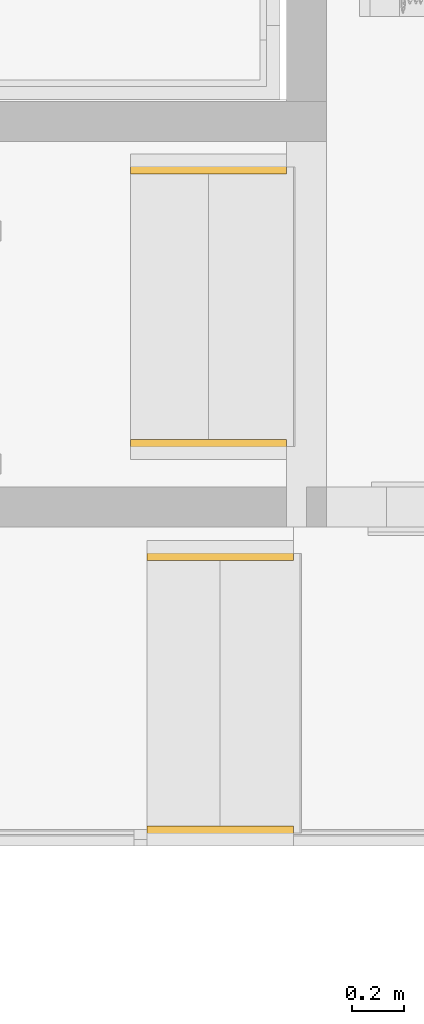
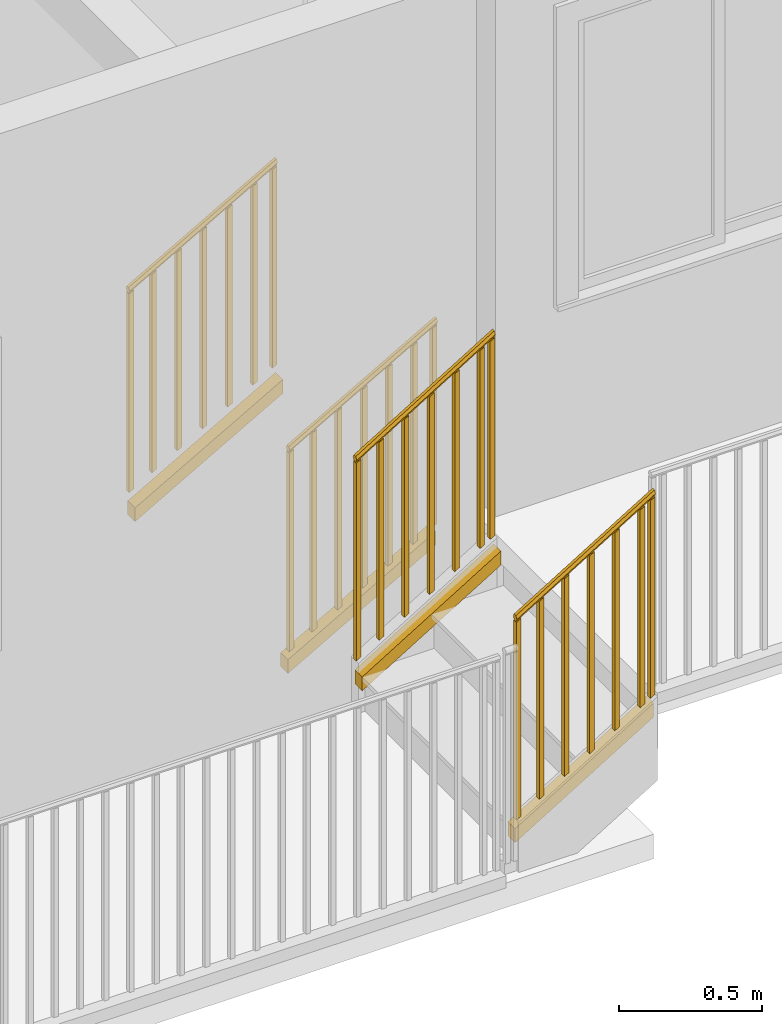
# One storey, part 11 of 21: 4 railings, 2 elements without a shape of their own.
"""IFC2X3 building model written with IfcOpenShell, lengths in feet."""

from ifc_helpers import new_model, entity, si_unit, converted_unit, derived_unit, direction, frame, origin, place, context, subcontext, project, spatial, faceted_brep, element, aggregate, save


model = new_model("IFC2X3")

# Units and contexts
model_context = context("Model", 3, precision=0.0001, world=origin(), true_north=direction((6.12303176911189e-17, 1.0)))
body_context = subcontext(model_context, "Body", "Model", "MODEL_VIEW")
ifc_project = project(units=[converted_unit("LENGTHUNIT", "FOOT", entity("IfcRatioMeasure", 0.3048), si_unit("LENGTHUNIT", "METRE"), dimensions=[1, 0, 0, 0, 0, 0, 0]), converted_unit("AREAUNIT", "SQUARE FOOT", entity("IfcRatioMeasure", 0.09290304), si_unit("AREAUNIT", "SQUARE_METRE"), dimensions=[2, 0, 0, 0, 0, 0, 0]), converted_unit("VOLUMEUNIT", "CUBIC FOOT", entity("IfcRatioMeasure", 0.028316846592), si_unit("VOLUMEUNIT", "CUBIC_METRE"), dimensions=[3, 0, 0, 0, 0, 0, 0]), converted_unit("PLANEANGLEUNIT", "DEGREE", entity("IfcRatioMeasure", 0.0174532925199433), si_unit("PLANEANGLEUNIT", "RADIAN"), dimensions=[0, 0, 0, 0, 0, 0, 0]), si_unit("MASSUNIT", "GRAM", prefix="KILO"), derived_unit("MASSDENSITYUNIT", [(si_unit("MASSUNIT", "GRAM", prefix="KILO"), 1), (si_unit("LENGTHUNIT", "METRE"), -3)]), si_unit("TIMEUNIT", "SECOND"), si_unit("FREQUENCYUNIT", "HERTZ"), si_unit("THERMODYNAMICTEMPERATUREUNIT", "DEGREE_CELSIUS"), derived_unit("THERMALTRANSMITTANCEUNIT", [(si_unit("MASSUNIT", "GRAM", prefix="KILO"), 1), (si_unit("THERMODYNAMICTEMPERATUREUNIT", "KELVIN"), -1), (si_unit("TIMEUNIT", "SECOND"), -3)]), derived_unit("VOLUMETRICFLOWRATEUNIT", [(si_unit("LENGTHUNIT", "METRE"), 3), (si_unit("TIMEUNIT", "SECOND"), -1)]), si_unit("ELECTRICCURRENTUNIT", "AMPERE"), si_unit("ELECTRICVOLTAGEUNIT", "VOLT"), si_unit("POWERUNIT", "WATT"), si_unit("FORCEUNIT", "NEWTON"), si_unit("ILLUMINANCEUNIT", "LUX"), si_unit("LUMINOUSFLUXUNIT", "LUMEN"), si_unit("LUMINOUSINTENSITYUNIT", "CANDELA"), derived_unit("USERDEFINED", [(si_unit("MASSUNIT", "GRAM", prefix="KILO"), -1), (si_unit("LENGTHUNIT", "METRE"), -2), (si_unit("TIMEUNIT", "SECOND"), 3), (si_unit("LUMINOUSFLUXUNIT", "LUMEN"), 1)]), derived_unit("LINEARVELOCITYUNIT", [(si_unit("LENGTHUNIT", "METRE"), 1), (si_unit("TIMEUNIT", "SECOND"), -1)]), si_unit("PRESSUREUNIT", "PASCAL"), derived_unit("USERDEFINED", [(si_unit("LENGTHUNIT", "METRE"), -2), (si_unit("MASSUNIT", "GRAM", prefix="KILO"), 1), (si_unit("TIMEUNIT", "SECOND"), -2)])], contexts=[model_context])

# Site, building, storey
site_placement = place(None, origin())
site = spatial("IfcSite", under=ifc_project, at=site_placement, Name="表面", CompositionType="ELEMENT")
building_placement = place(site_placement, origin())
building = spatial("IfcBuilding", under=site, at=building_placement, CompositionType="ELEMENT")
storey_placement = place(building_placement, origin())
storey = spatial("IfcBuildingStorey", under=building, at=storey_placement, Name="Level 1", CompositionType="ELEMENT", Elevation=0.0)

# Stair, railings
stair_1_placement = place(storey_placement, origin())
stair_1 = element("IfcStair", 1, at=stair_1_placement, inside=storey, Name="楼梯:7\" max riser 11\" tread", ObjectType="楼梯:7\" max riser 11\" tread", ShapeType="NOTDEFINED")
railing_1_placement = place(stair_1_placement, frame((13.9650869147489, -13.8176063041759, 0.863628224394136)))
railing_1 = element("IfcRailing", 2, at=railing_1_placement, Name="栏杆扶手:Handrail - Rectangular", ObjectType="栏杆扶手:Handrail - Rectangular", PredefinedType="NOTDEFINED", context=body_context, shape_type="Brep", body=[
    faceted_brep([(1.63541666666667, 0.197916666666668, 4.09458963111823), (1.63541666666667, 0.197916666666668, 1.33037211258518), (1.63541666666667, 0.135416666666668, 1.33037211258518), (1.63541666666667, 0.135416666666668, 4.09458963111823), (1.69791666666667, 0.197916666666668, 4.1326912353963), (1.69791666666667, 0.197916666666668, 1.36847371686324), (1.69791666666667, 0.135416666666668, 4.1326912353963), (1.69791666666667, 0.135416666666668, 1.36847371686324)], [[[0, 1, 2, 3]], [[4, 5, 1, 0]], [[6, 7, 5, 4]], [[3, 2, 7, 6]], [[3, 6, 4, 0]], [[1, 5, 7, 2]]]),
    faceted_brep([(1.30208333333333, 0.197916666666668, 3.89138107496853), (1.30208333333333, 0.197916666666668, 1.12716355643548), (1.30208333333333, 0.135416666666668, 1.12716355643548), (1.30208333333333, 0.135416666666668, 3.89138107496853), (1.36458333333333, 0.197916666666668, 3.9294826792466), (1.36458333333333, 0.197916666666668, 1.16526516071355), (1.36458333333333, 0.135416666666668, 3.9294826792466), (1.36458333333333, 0.135416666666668, 1.16526516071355)], [[[0, 1, 2, 3]], [[4, 5, 1, 0]], [[6, 7, 5, 4]], [[3, 2, 7, 6]], [[3, 6, 4, 0]], [[1, 5, 7, 2]]]),
    faceted_brep([(0.96875, 0.197916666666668, 3.68817251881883), (0.96875, 0.197916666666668, 0.923955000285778), (0.96875, 0.135416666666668, 0.923955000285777), (0.96875, 0.135416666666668, 3.68817251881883), (1.03125, 0.197916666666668, 3.7262741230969), (1.03125, 0.197916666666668, 0.962056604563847), (1.03125, 0.135416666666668, 3.7262741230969), (1.03125, 0.135416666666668, 0.962056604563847)], [[[0, 1, 2, 3]], [[4, 5, 1, 0]], [[6, 7, 5, 4]], [[3, 2, 7, 6]], [[3, 6, 4, 0]], [[1, 5, 7, 2]]]),
    faceted_brep([(0.635416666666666, 0.197916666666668, 3.48496396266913), (0.635416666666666, 0.197916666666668, 0.720746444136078), (0.635416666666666, 0.135416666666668, 0.720746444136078), (0.635416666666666, 0.135416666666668, 3.48496396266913), (0.697916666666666, 0.197916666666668, 3.5230655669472), (0.697916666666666, 0.197916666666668, 0.758848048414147), (0.697916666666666, 0.135416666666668, 3.5230655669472), (0.697916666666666, 0.135416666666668, 0.758848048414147)], [[[0, 1, 2, 3]], [[4, 5, 1, 0]], [[6, 7, 5, 4]], [[3, 2, 7, 6]], [[3, 6, 4, 0]], [[1, 5, 7, 2]]]),
    faceted_brep([(0.302083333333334, 0.197916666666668, 3.28175540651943), (0.302083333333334, 0.197916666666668, 0.51753788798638), (0.302083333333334, 0.135416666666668, 0.51753788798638), (0.302083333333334, 0.135416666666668, 3.28175540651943), (0.364583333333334, 0.197916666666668, 3.3198570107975), (0.364583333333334, 0.197916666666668, 0.555639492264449), (0.364583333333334, 0.135416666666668, 3.3198570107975), (0.364583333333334, 0.135416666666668, 0.555639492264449)], [[[0, 1, 2, 3]], [[4, 5, 1, 0]], [[6, 7, 5, 4]], [[3, 2, 7, 6]], [[3, 6, 4, 0]], [[1, 5, 7, 2]]]),
    faceted_brep([(1.77083333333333, 0.197916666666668, 4.17714310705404), (1.77083333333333, 0.197916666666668, 1.41292558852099), (1.77083333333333, 0.135416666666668, 1.41292558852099), (1.77083333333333, 0.135416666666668, 4.17714310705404), (1.83333333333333, 0.197916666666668, 4.21524471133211), (1.83333333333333, 0.197916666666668, 1.45102719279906), (1.83333333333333, 0.135416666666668, 4.21524471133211), (1.83333333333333, 0.135416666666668, 1.45102719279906)], [[[0, 1, 2, 3]], [[4, 5, 1, 0]], [[6, 7, 5, 4]], [[3, 2, 7, 6]], [[3, 6, 4, 0]], [[1, 5, 7, 2]]]),
    faceted_brep([(0.0, 0.197916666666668, 3.09759765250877), (0.0, 0.197916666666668, 0.333380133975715), (0.0, 0.135416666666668, 0.333380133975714), (0.0, 0.135416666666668, 3.09759765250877), (0.0625, 0.197916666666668, 3.13569925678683), (0.0625, 0.197916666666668, 0.371481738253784), (0.0625, 0.135416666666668, 3.13569925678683), (0.0625, 0.135416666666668, 0.371481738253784)], [[[0, 1, 2, 3]], [[4, 5, 1, 0]], [[6, 7, 5, 4]], [[3, 2, 7, 6]], [[3, 6, 4, 0]], [[1, 5, 7, 2]]]),
    faceted_brep([(0.0, 0.0, 0.195195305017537), (0.0, 0.166666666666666, 0.195195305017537), (0.0, 0.166666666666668, 0.0), (0.0, 0.0, 0.0), (1.83333333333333, 0.0, 1.31284236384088), (1.83333333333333, 0.0, 1.11764705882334), (1.83333333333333, 0.166666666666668, 1.11764705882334), (1.83333333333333, 0.166666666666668, 1.31284236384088)], [[[0, 1, 2, 3]], [[4, 5, 6, 7]], [[3, 2, 6, 5]], [[0, 3, 5, 4]], [[1, 0, 4, 7]], [[2, 1, 7, 6]]]),
    faceted_brep([(0.0, 0.208333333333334, 3.14639647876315), (0.0, 0.187500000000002, 3.10413545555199), (0.0, 0.145833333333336, 3.10413545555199), (0.0, 0.125000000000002, 3.14639647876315), (0.0, 0.145833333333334, 3.18865750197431), (0.0, 0.187500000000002, 3.18865750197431), (1.83333333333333, 0.145833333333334, 4.30630456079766), (1.83333333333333, 0.125000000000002, 4.2640435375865), (1.83333333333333, 0.145833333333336, 4.22178251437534), (1.83333333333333, 0.187500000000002, 4.22178251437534), (1.83333333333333, 0.208333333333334, 4.2640435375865), (1.83333333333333, 0.187500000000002, 4.30630456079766)], [[[0, 1, 2, 3, 4, 5]], [[6, 7, 8, 9, 10, 11]], [[7, 6, 4, 3]], [[6, 11, 5, 4]], [[11, 10, 0, 5]], [[10, 9, 1, 0]], [[9, 8, 2, 1]], [[8, 7, 3, 2]]]),
])
railing_2_placement = place(stair_1_placement, frame((13.9650869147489, -17.3645068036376, 0.863628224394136)))
railing_2 = element("IfcRailing", 3, at=railing_2_placement, Name="栏杆扶手:Handrail - Rectangular", ObjectType="栏杆扶手:Handrail - Rectangular", PredefinedType="NOTDEFINED", context=body_context, shape_type="Brep", body=[
    faceted_brep([(1.63541666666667, 0.0156504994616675, 4.09458963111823), (1.63541666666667, 0.0781504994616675, 4.09458963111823), (1.63541666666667, 0.0781504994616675, 1.33037211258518), (1.63541666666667, 0.0156504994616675, 1.33037211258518), (1.69791666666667, 0.0156504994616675, 4.1326912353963), (1.69791666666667, 0.0156504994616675, 1.36847371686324), (1.69791666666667, 0.0781504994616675, 4.1326912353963), (1.69791666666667, 0.0781504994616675, 1.36847371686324)], [[[0, 1, 2, 3]], [[4, 0, 3, 5]], [[6, 4, 5, 7]], [[1, 6, 7, 2]], [[1, 0, 4, 6]], [[3, 2, 7, 5]]]),
    faceted_brep([(1.30208333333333, 0.0156504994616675, 3.89138107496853), (1.30208333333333, 0.0781504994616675, 3.89138107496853), (1.30208333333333, 0.0781504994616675, 1.12716355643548), (1.30208333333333, 0.0156504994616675, 1.12716355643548), (1.36458333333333, 0.0156504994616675, 3.9294826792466), (1.36458333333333, 0.0156504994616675, 1.16526516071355), (1.36458333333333, 0.0781504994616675, 3.9294826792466), (1.36458333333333, 0.0781504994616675, 1.16526516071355)], [[[0, 1, 2, 3]], [[4, 0, 3, 5]], [[6, 4, 5, 7]], [[1, 6, 7, 2]], [[1, 0, 4, 6]], [[3, 2, 7, 5]]]),
    faceted_brep([(0.96875, 0.0156504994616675, 3.68817251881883), (0.96875, 0.0781504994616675, 3.68817251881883), (0.96875, 0.0781504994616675, 0.923955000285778), (0.96875, 0.0156504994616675, 0.923955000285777), (1.03125, 0.0156504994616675, 3.7262741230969), (1.03125, 0.0156504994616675, 0.962056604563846), (1.03125, 0.0781504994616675, 3.7262741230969), (1.03125, 0.0781504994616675, 0.962056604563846)], [[[0, 1, 2, 3]], [[4, 0, 3, 5]], [[6, 4, 5, 7]], [[1, 6, 7, 2]], [[1, 0, 4, 6]], [[3, 2, 7, 5]]]),
    faceted_brep([(0.635416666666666, 0.0156504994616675, 3.48496396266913), (0.635416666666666, 0.0781504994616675, 3.48496396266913), (0.635416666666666, 0.0781504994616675, 0.720746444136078), (0.635416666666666, 0.0156504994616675, 0.720746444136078), (0.697916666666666, 0.0156504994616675, 3.5230655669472), (0.697916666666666, 0.0156504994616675, 0.758848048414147), (0.697916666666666, 0.0781504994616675, 3.5230655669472), (0.697916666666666, 0.0781504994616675, 0.758848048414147)], [[[0, 1, 2, 3]], [[4, 0, 3, 5]], [[6, 4, 5, 7]], [[1, 6, 7, 2]], [[1, 0, 4, 6]], [[3, 2, 7, 5]]]),
    faceted_brep([(0.302083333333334, 0.0156504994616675, 3.28175540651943), (0.302083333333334, 0.0781504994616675, 3.28175540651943), (0.302083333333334, 0.0781504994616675, 0.51753788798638), (0.302083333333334, 0.0156504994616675, 0.51753788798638), (0.364583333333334, 0.0156504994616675, 3.3198570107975), (0.364583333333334, 0.0156504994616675, 0.555639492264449), (0.364583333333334, 0.0781504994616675, 3.3198570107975), (0.364583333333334, 0.0781504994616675, 0.555639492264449)], [[[0, 1, 2, 3]], [[4, 0, 3, 5]], [[6, 4, 5, 7]], [[1, 6, 7, 2]], [[1, 0, 4, 6]], [[3, 2, 7, 5]]]),
    faceted_brep([(1.77083333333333, 0.0156504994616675, 4.17714310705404), (1.77083333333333, 0.0781504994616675, 4.17714310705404), (1.77083333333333, 0.0781504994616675, 1.41292558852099), (1.77083333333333, 0.0156504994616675, 1.41292558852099), (1.83333333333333, 0.0156504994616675, 4.21524471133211), (1.83333333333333, 0.0156504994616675, 1.45102719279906), (1.83333333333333, 0.0781504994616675, 4.21524471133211), (1.83333333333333, 0.0781504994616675, 1.45102719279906)], [[[0, 1, 2, 3]], [[4, 0, 3, 5]], [[6, 4, 5, 7]], [[1, 6, 7, 2]], [[1, 0, 4, 6]], [[3, 2, 7, 5]]]),
    faceted_brep([(0.0, 0.0156504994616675, 3.09759765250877), (0.0, 0.0781504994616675, 3.09759765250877), (0.0, 0.0781504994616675, 0.333380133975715), (0.0, 0.0156504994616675, 0.333380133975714), (0.0625, 0.0156504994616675, 3.13569925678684), (0.0625, 0.0156504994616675, 0.371481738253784), (0.0625, 0.0781504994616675, 3.13569925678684), (0.0625, 0.0781504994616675, 0.371481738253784)], [[[0, 1, 2, 3]], [[4, 0, 3, 5]], [[6, 4, 5, 7]], [[1, 6, 7, 2]], [[1, 0, 4, 6]], [[3, 2, 7, 5]]]),
    faceted_brep([(0.0, 0.213567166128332, 0.195195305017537), (0.0, 0.213567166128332, 0.0), (0.0, 0.0469004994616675, 0.0), (0.0, 0.0469004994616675, 0.195195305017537), (1.83333333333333, 0.213567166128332, 1.31284236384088), (1.83333333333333, 0.046900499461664, 1.31284236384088), (1.83333333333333, 0.0469004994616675, 1.11764705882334), (1.83333333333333, 0.213567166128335, 1.11764705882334)], [[[0, 1, 2, 3]], [[4, 5, 6, 7]], [[1, 0, 4, 7]], [[2, 1, 7, 6]], [[3, 2, 6, 5]], [[0, 3, 5, 4]]]),
    faceted_brep([(0.0, 0.0677338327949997, 3.18865750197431), (0.0, 0.0885671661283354, 3.14639647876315), (0.0, 0.0677338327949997, 3.10413545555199), (0.0, 0.0260671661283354, 3.10413545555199), (0.0, 0.00523383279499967, 3.14639647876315), (0.0, 0.0260671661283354, 3.18865750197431), (1.83333333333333, 0.0260671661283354, 4.30630456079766), (1.83333333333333, 0.00523383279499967, 4.2640435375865), (1.83333333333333, 0.0260671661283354, 4.22178251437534), (1.83333333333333, 0.0677338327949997, 4.22178251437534), (1.83333333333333, 0.0885671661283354, 4.2640435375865), (1.83333333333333, 0.0677338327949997, 4.30630456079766)], [[[0, 1, 2, 3, 4, 5]], [[6, 7, 8, 9, 10, 11]], [[10, 9, 2, 1]], [[9, 8, 3, 2]], [[8, 7, 4, 3]], [[7, 6, 5, 4]], [[6, 11, 0, 5]], [[11, 10, 1, 0]]]),
])
aggregate(stair_1, [railing_1, railing_2])

stair_2_placement = place(storey_placement, origin())
stair_2 = element("IfcStair", 4, at=stair_2_placement, inside=storey, Name="楼梯:7\" max riser 11\" tread", ObjectType="楼梯:7\" max riser 11\" tread", ShapeType="NOTDEFINED")
railing_3_placement = place(stair_2_placement, frame((13.759352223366, -12.5200980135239, 0.363869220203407)))
railing_3 = element("IfcRailing", 5, at=railing_3_placement, Name="栏杆扶手:Handrail - Rectangular", ObjectType="栏杆扶手:Handrail - Rectangular", PredefinedType="NOTDEFINED", context=body_context, shape_type="Brep", body=[
    faceted_brep([(1.63541666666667, 0.015650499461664, 4.02497207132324), (1.63541666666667, 0.078150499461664, 4.02497207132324), (1.63541666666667, 0.078150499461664, 1.24992292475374), (1.63541666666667, 0.015650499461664, 1.24992292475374), (1.69791666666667, 0.015650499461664, 4.06048018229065), (1.69791666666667, 0.015650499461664, 1.28543103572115), (1.69791666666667, 0.078150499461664, 4.06048018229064), (1.69791666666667, 0.078150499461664, 1.28543103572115)], [[[0, 1, 2, 3]], [[4, 0, 3, 5]], [[6, 4, 5, 7]], [[1, 6, 7, 2]], [[1, 0, 4, 6]], [[3, 2, 7, 5]]]),
    faceted_brep([(1.30208333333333, 0.0156504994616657, 3.83559547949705), (1.30208333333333, 0.0781504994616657, 3.83559547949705), (1.30208333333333, 0.0781504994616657, 1.06054633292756), (1.30208333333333, 0.0156504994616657, 1.06054633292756), (1.36458333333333, 0.0156504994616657, 3.87110359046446), (1.36458333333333, 0.0156504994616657, 1.09605444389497), (1.36458333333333, 0.0781504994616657, 3.87110359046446), (1.36458333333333, 0.0781504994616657, 1.09605444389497)], [[[0, 1, 2, 3]], [[4, 0, 3, 5]], [[6, 4, 5, 7]], [[1, 6, 7, 2]], [[1, 0, 4, 6]], [[3, 2, 7, 5]]]),
    faceted_brep([(0.96875, 0.0156504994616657, 3.64621888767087), (0.96875, 0.0781504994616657, 3.64621888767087), (0.96875, 0.0781504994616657, 0.871169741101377), (0.96875, 0.0156504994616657, 0.871169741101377), (1.03125, 0.0156504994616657, 3.68172699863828), (1.03125, 0.0156504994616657, 0.906677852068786), (1.03125, 0.0781504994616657, 3.68172699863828), (1.03125, 0.0781504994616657, 0.906677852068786)], [[[0, 1, 2, 3]], [[4, 0, 3, 5]], [[6, 4, 5, 7]], [[1, 6, 7, 2]], [[1, 0, 4, 6]], [[3, 2, 7, 5]]]),
    faceted_brep([(0.635416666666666, 0.0156504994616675, 3.45684229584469), (0.635416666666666, 0.0781504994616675, 3.45684229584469), (0.635416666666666, 0.0781504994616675, 0.681793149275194), (0.635416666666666, 0.0156504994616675, 0.681793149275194), (0.697916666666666, 0.0156504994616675, 3.4923504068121), (0.697916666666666, 0.0156504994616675, 0.717301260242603), (0.697916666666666, 0.0781504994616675, 3.4923504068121), (0.697916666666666, 0.0781504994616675, 0.717301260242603)], [[[0, 1, 2, 3]], [[4, 0, 3, 5]], [[6, 4, 5, 7]], [[1, 6, 7, 2]], [[1, 0, 4, 6]], [[3, 2, 7, 5]]]),
    faceted_brep([(0.302083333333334, 0.0156504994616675, 3.26746570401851), (0.302083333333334, 0.0781504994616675, 3.26746570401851), (0.302083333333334, 0.0781504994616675, 0.492416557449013), (0.302083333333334, 0.0156504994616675, 0.492416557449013), (0.364583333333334, 0.0156504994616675, 3.30297381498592), (0.364583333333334, 0.0156504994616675, 0.527924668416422), (0.364583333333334, 0.0781504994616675, 3.30297381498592), (0.364583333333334, 0.0781504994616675, 0.527924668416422)], [[[0, 1, 2, 3]], [[4, 0, 3, 5]], [[6, 4, 5, 7]], [[1, 6, 7, 2]], [[1, 0, 4, 6]], [[3, 2, 7, 5]]]),
    faceted_brep([(1.89323469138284, 0.015650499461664, 4.17144616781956), (1.89323469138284, 0.078150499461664, 4.17144616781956), (1.89323469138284, 0.078150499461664, 1.39639702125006), (1.89323469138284, 0.015650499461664, 1.39639702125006), (1.95573469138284, 0.015650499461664, 4.20695427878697), (1.95573469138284, 0.015650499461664, 1.43190513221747), (1.95573469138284, 0.078150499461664, 4.20695427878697), (1.95573469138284, 0.078150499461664, 1.43190513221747)], [[[0, 1, 2, 3]], [[4, 0, 3, 5]], [[6, 4, 5, 7]], [[1, 6, 7, 2]], [[1, 0, 4, 6]], [[3, 2, 7, 5]]]),
    faceted_brep([(0.0, 0.0156504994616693, 3.09584316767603), (0.0, 0.0781504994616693, 3.09584316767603), (0.0, 0.0781504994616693, 0.320794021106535), (0.0, 0.0156504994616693, 0.320794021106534), (0.0625, 0.0156504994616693, 3.13135127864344), (0.0625, 0.0156504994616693, 0.356302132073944), (0.0625, 0.0781504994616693, 3.13135127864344), (0.0625, 0.0781504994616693, 0.356302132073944)], [[[0, 1, 2, 3]], [[4, 0, 3, 5]], [[6, 4, 5, 7]], [[1, 6, 7, 2]], [[1, 0, 4, 6]], [[3, 2, 7, 5]]]),
    faceted_brep([(0.0, 0.213567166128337, 0.191686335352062), (0.0, 0.213567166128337, 0.0), (0.0, 0.0469004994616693, 0.0), (0.0, 0.0469004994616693, 0.191686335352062), (1.95573469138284, 0.213567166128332, 1.302797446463), (1.95573469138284, 0.0469004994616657, 1.302797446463), (1.95573469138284, 0.046900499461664, 1.11111111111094), (1.95573469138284, 0.21356716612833, 1.11111111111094)], [[[0, 1, 2, 3]], [[4, 5, 6, 7]], [[1, 0, 4, 7]], [[2, 1, 7, 6]], [[3, 2, 6, 5]], [[0, 3, 5, 4]]]),
    faceted_brep([(0.0, 0.0885671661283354, 3.14376475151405), (0.0, 0.0677338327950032, 3.10226344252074), (0.0, 0.0260671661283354, 3.10226344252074), (0.0, 0.00523383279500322, 3.14376475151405), (0.0, 0.0260671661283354, 3.18526606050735), (0.0, 0.0677338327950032, 3.18526606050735), (1.95573469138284, 0.02606716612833, 4.29637717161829), (1.95573469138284, 0.00523383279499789, 4.25487586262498), (1.95573469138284, 0.02606716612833, 4.21337455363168), (1.95573469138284, 0.0677338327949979, 4.21337455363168), (1.95573469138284, 0.08856716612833, 4.25487586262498), (1.95573469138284, 0.0677338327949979, 4.29637717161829)], [[[0, 1, 2, 3, 4, 5]], [[6, 7, 8, 9, 10, 11]], [[10, 9, 1, 0]], [[9, 8, 2, 1]], [[8, 7, 3, 2]], [[7, 6, 4, 3]], [[6, 11, 5, 4]], [[11, 10, 0, 5]]]),
])
railing_4_placement = place(stair_2_placement, frame((13.759352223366, -8.97319751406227, 0.363869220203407)))
railing_4 = element("IfcRailing", 6, at=railing_4_placement, Name="栏杆扶手:Handrail - Rectangular", ObjectType="栏杆扶手:Handrail - Rectangular", PredefinedType="NOTDEFINED", context=body_context, shape_type="Brep", body=[
    faceted_brep([(1.63541666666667, 0.197916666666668, 4.02497207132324), (1.63541666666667, 0.197916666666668, 1.24992292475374), (1.63541666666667, 0.135416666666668, 1.24992292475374), (1.63541666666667, 0.135416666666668, 4.02497207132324), (1.69791666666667, 0.197916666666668, 4.06048018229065), (1.69791666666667, 0.197916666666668, 1.28543103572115), (1.69791666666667, 0.135416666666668, 4.06048018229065), (1.69791666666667, 0.135416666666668, 1.28543103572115)], [[[0, 1, 2, 3]], [[4, 5, 1, 0]], [[6, 7, 5, 4]], [[3, 2, 7, 6]], [[3, 6, 4, 0]], [[1, 5, 7, 2]]]),
    faceted_brep([(1.30208333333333, 0.19791666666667, 3.83559547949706), (1.30208333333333, 0.19791666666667, 1.06054633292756), (1.30208333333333, 0.13541666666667, 1.06054633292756), (1.30208333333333, 0.13541666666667, 3.83559547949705), (1.36458333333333, 0.19791666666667, 3.87110359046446), (1.36458333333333, 0.19791666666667, 1.09605444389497), (1.36458333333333, 0.13541666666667, 3.87110359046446), (1.36458333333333, 0.13541666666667, 1.09605444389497)], [[[0, 1, 2, 3]], [[4, 5, 1, 0]], [[6, 7, 5, 4]], [[3, 2, 7, 6]], [[3, 6, 4, 0]], [[1, 5, 7, 2]]]),
    faceted_brep([(0.96875, 0.19791666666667, 3.64621888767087), (0.96875, 0.19791666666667, 0.871169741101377), (0.96875, 0.13541666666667, 0.871169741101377), (0.96875, 0.13541666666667, 3.64621888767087), (1.03125, 0.19791666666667, 3.68172699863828), (1.03125, 0.19791666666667, 0.906677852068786), (1.03125, 0.13541666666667, 3.68172699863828), (1.03125, 0.13541666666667, 0.906677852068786)], [[[0, 1, 2, 3]], [[4, 5, 1, 0]], [[6, 7, 5, 4]], [[3, 2, 7, 6]], [[3, 6, 4, 0]], [[1, 5, 7, 2]]]),
    faceted_brep([(0.635416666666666, 0.197916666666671, 3.45684229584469), (0.635416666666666, 0.197916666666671, 0.681793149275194), (0.635416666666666, 0.135416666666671, 0.681793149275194), (0.635416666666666, 0.135416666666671, 3.45684229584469), (0.697916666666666, 0.197916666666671, 3.4923504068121), (0.697916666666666, 0.197916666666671, 0.717301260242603), (0.697916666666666, 0.135416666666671, 3.4923504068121), (0.697916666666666, 0.135416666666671, 0.717301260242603)], [[[0, 1, 2, 3]], [[4, 5, 1, 0]], [[6, 7, 5, 4]], [[3, 2, 7, 6]], [[3, 6, 4, 0]], [[1, 5, 7, 2]]]),
    faceted_brep([(0.302083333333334, 0.197916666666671, 3.26746570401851), (0.302083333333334, 0.197916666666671, 0.492416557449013), (0.302083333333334, 0.135416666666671, 0.492416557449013), (0.302083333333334, 0.135416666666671, 3.26746570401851), (0.364583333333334, 0.197916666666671, 3.30297381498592), (0.364583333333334, 0.197916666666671, 0.527924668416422), (0.364583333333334, 0.135416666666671, 3.30297381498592), (0.364583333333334, 0.135416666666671, 0.527924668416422)], [[[0, 1, 2, 3]], [[4, 5, 1, 0]], [[6, 7, 5, 4]], [[3, 2, 7, 6]], [[3, 6, 4, 0]], [[1, 5, 7, 2]]]),
    faceted_brep([(1.89323469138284, 0.197916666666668, 4.17144616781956), (1.89323469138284, 0.197916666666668, 1.39639702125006), (1.89323469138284, 0.135416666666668, 1.39639702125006), (1.89323469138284, 0.135416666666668, 4.17144616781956), (1.95573469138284, 0.197916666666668, 4.20695427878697), (1.95573469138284, 0.197916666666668, 1.43190513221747), (1.95573469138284, 0.135416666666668, 4.20695427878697), (1.95573469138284, 0.135416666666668, 1.43190513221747)], [[[0, 1, 2, 3]], [[4, 5, 1, 0]], [[6, 7, 5, 4]], [[3, 2, 7, 6]], [[3, 6, 4, 0]], [[1, 5, 7, 2]]]),
    faceted_brep([(0.0, 0.197916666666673, 3.09584316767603), (0.0, 0.197916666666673, 0.320794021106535), (0.0, 0.135416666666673, 0.320794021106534), (0.0, 0.135416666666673, 3.09584316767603), (0.0625, 0.197916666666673, 3.13135127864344), (0.0625, 0.197916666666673, 0.356302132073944), (0.0625, 0.135416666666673, 3.13135127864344), (0.0625, 0.135416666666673, 0.356302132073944)], [[[0, 1, 2, 3]], [[4, 5, 1, 0]], [[6, 7, 5, 4]], [[3, 2, 7, 6]], [[3, 6, 4, 0]], [[1, 5, 7, 2]]]),
    faceted_brep([(0.0, 0.0, 0.191686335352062), (0.0, 0.166666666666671, 0.191686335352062), (0.0, 0.166666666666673, 0.0), (0.0, 0.0, 0.0), (1.95573469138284, 0.0, 1.302797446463), (1.95573469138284, 0.0, 1.11111111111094), (1.95573469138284, 0.166666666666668, 1.11111111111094), (1.95573469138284, 0.166666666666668, 1.302797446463)], [[[0, 1, 2, 3]], [[4, 5, 6, 7]], [[1, 0, 4, 7]], [[2, 1, 7, 6]], [[3, 2, 6, 5]], [[0, 3, 5, 4]]]),
    faceted_brep([(0.0, 0.208333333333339, 3.14376475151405), (0.0, 0.187500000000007, 3.10226344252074), (0.0, 0.145833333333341, 3.10226344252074), (0.0, 0.125000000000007, 3.14376475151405), (0.0, 0.145833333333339, 3.18526606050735), (0.0, 0.187500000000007, 3.18526606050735), (1.95573469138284, 0.145833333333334, 4.29637717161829), (1.95573469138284, 0.125000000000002, 4.25487586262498), (1.95573469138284, 0.145833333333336, 4.21337455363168), (1.95573469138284, 0.187500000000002, 4.21337455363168), (1.95573469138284, 0.208333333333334, 4.25487586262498), (1.95573469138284, 0.187500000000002, 4.29637717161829)], [[[0, 1, 2, 3, 4, 5]], [[6, 7, 8, 9, 10, 11]], [[7, 6, 4, 3]], [[6, 11, 5, 4]], [[11, 10, 0, 5]], [[10, 9, 1, 0]], [[9, 8, 2, 1]], [[8, 7, 3, 2]]]),
])
aggregate(stair_2, [railing_3, railing_4])

save(model, "model.ifc")
